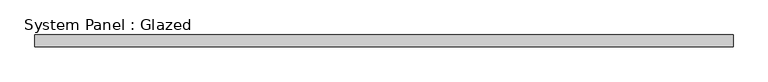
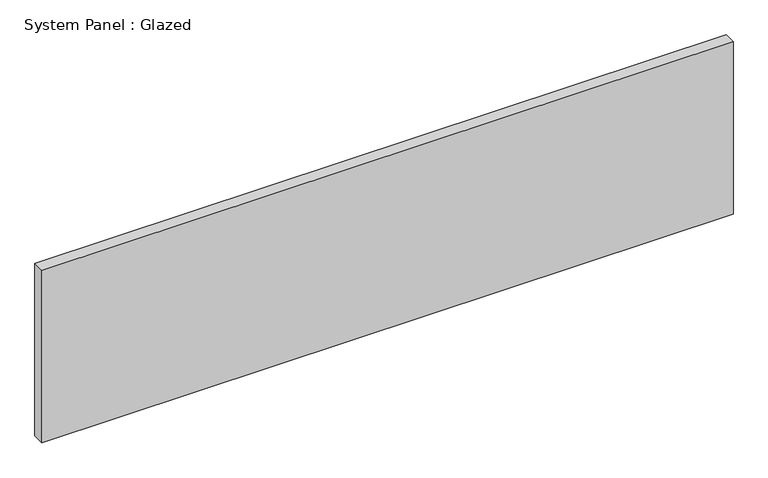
"""IFC4 building model written with IfcOpenShell, lengths in millimetres: plate geometry, System Panel : Glazed."""

from ifc_helpers import new_model, si_unit, origin, origin_with_axes, place, context, project, spatial, polyline, outline, extrude, source, transform, mapped, element, save


def system_panel_glazed_bfac3f35(model_context):
    return source(origin(), model_context, "Body", "SweptSolid", [
        extrude(outline(polyline([(724.5000001, -49.5), (-724.5000001, -49.5), (-724.5000001, -24.5), (724.5000001, -24.5), (724.5000001, -49.5)])), origin_with_axes(), (0.0, 0.0, 1.0), 382.2),
    ])


if __name__ == "__main__":
    model = new_model("IFC4")
    model_context = context("Model", 3, world=origin())
    ifc_project = project(units=[si_unit("LENGTHUNIT", "METRE", prefix="MILLI")], contexts=[model_context])
    site = spatial("IfcSite", under=ifc_project)
    building = spatial("IfcBuilding", under=site)
    placement = place(None, origin())
    system_panel_glazed_shape = system_panel_glazed_bfac3f35(model_context)
    element("IfcPlate", 1, ObjectType="System Panel : Glazed", at=placement, inside=building, context=model_context, shape_type="MappedRepresentation", body=[
        mapped(system_panel_glazed_shape, transform((0.0, 0.0, 0.0), x_axis=(1.0, 0.0, 0.0), y_axis=(0.0, 1.0, 0.0), z_axis=(0.0, 0.0, 1.0))),
    ])
    save(model, "model.ifc")
